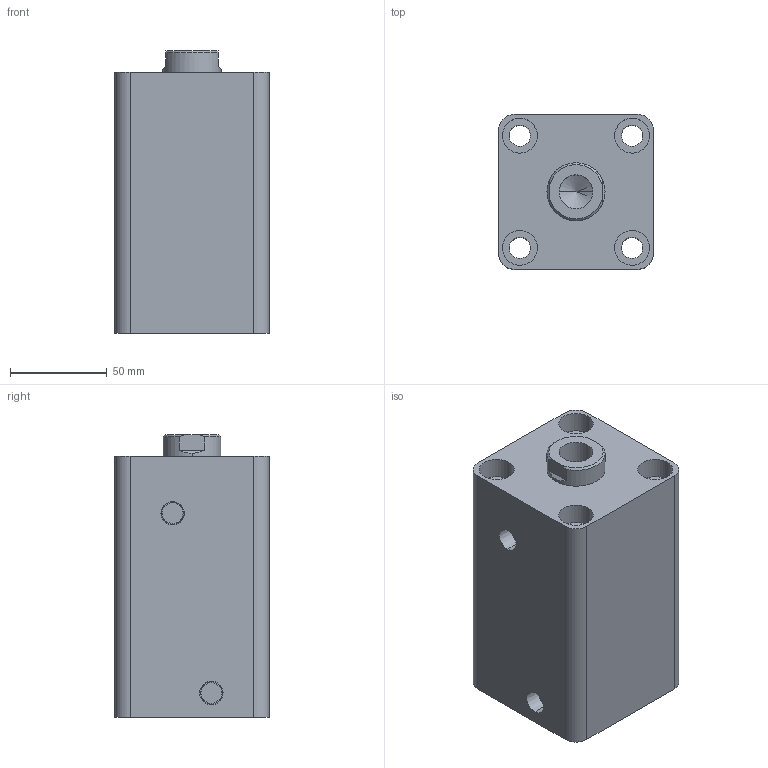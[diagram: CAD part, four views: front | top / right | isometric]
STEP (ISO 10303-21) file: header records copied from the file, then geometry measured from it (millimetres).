
FILE_DESCRIPTION (( 'STEP AP203' ), '1' );
FILE_NAME ('HTB-SD50-75N.STEP', '2019-10-07T07:13:30', ( '微软用户' ), ( '微软中国' ), 'SwSTEP 2.0', 'SolidWorks 2012', '' );
FILE_SCHEMA (( 'CONFIG_CONTROL_DESIGN' ));
Length unit declared in the file: millimetre
Products named in the file (3): HTB-SD50-75N; HTB-SD50-75N活塞杆; HTB-SD50-75掛极
Assembly tree (2 placements, depth 2):
  HTB-SD50-75N
    HTB-SD50-75掛极
    HTB-SD50-75N活塞杆
Bounding box: 80 x 80 x 146 mm (x, y, z)
Volume: 695666.6 mm3; surface area: 114163.7 mm2
Topology: 2 solids, 2 shells, 83 faces, 184 edges, 119 vertices
Faces by surface type: cylinder 42, plane 27, cone 8, torus 6
Entity records: 2655 total; most frequent: DIRECTION 456, CARTESIAN_POINT 417, ORIENTED_EDGE 364, AXIS2_PLACEMENT_3D 194, EDGE_CURVE 182, VERTEX_POINT 119, EDGE_LOOP 107, CIRCLE 106
